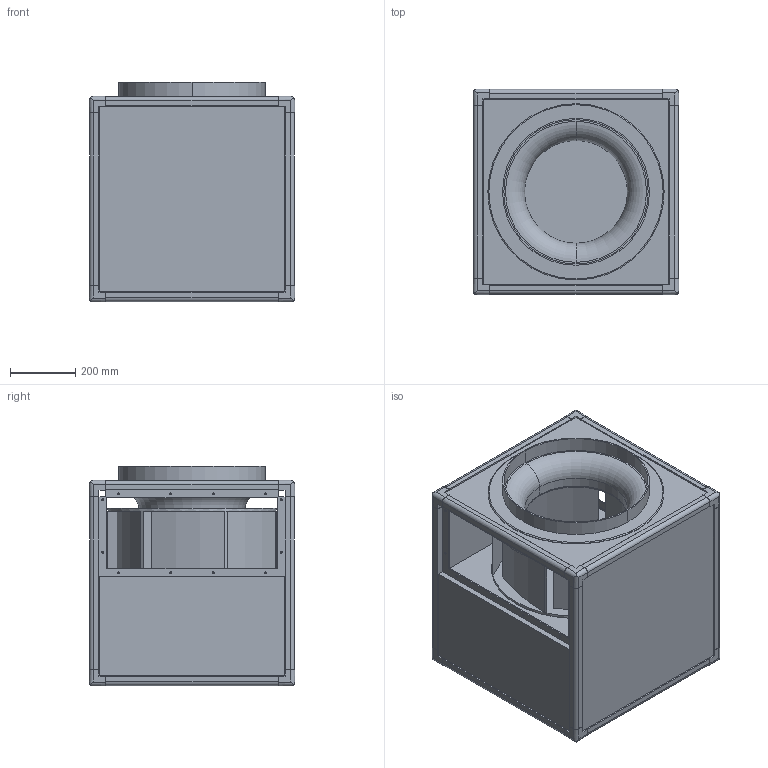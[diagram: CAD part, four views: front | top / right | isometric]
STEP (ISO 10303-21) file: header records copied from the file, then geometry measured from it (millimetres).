
FILE_DESCRIPTION(('STEP AP214'),'1');
FILE_NAME('fan_5148518900.stp','2017-09-06T16:17:40',('TraceParts'),('TraceParts S.A.'),'Spatial InterOp 3D',' ',' ');
FILE_SCHEMA(('automotive_design'));
Length unit declared in the file: millimetre
Products named in the file (1): fan_5148518900
Bounding box: 630 x 630 x 674 mm (x, y, z)
Volume: 51995184.8 mm3; surface area: 6140344.5 mm2
Topology: 1 solids, 1 shells, 788 faces, 2315 edges, 1503 vertices
Faces by surface type: plane 670, cylinder 112, torus 6
Entity records: 29616 total; most frequent: ORIENTED_EDGE 4630, CARTESIAN_POINT 4607, DIRECTION 4150, EDGE_CURVE 2315, LINE 2058, VECTOR 2058, VERTEX_POINT 1503, AXIS2_PLACEMENT_3D 1046
